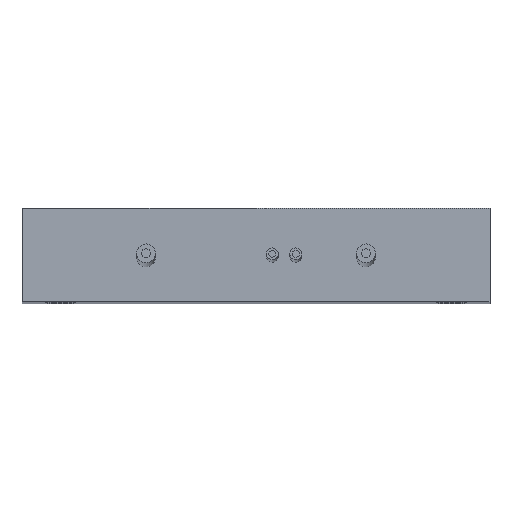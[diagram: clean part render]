
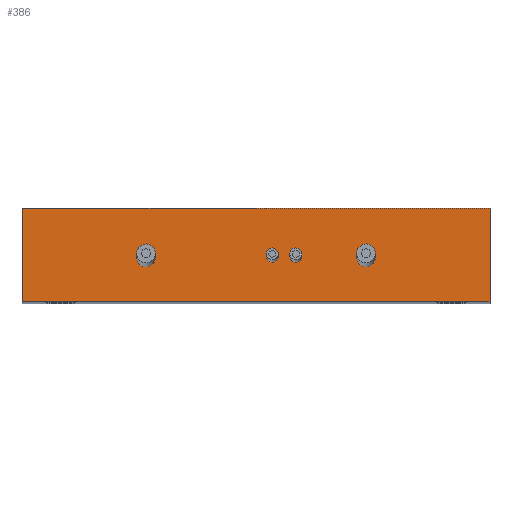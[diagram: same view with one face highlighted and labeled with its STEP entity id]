
A CAD part, top view. The second image highlights one B-rep face of the part: STEP entity #386.
In plain terms, the highlighted planar face has unit normal (0, 0, 1).
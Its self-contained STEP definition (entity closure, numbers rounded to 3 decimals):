
#13=LINE($,#608,#25);
#16=LINE($,#622,#28);
#19=LINE($,#628,#31);
#22=LINE($,#641,#34);
#25=VECTOR($,#509,20.);
#28=VECTOR($,#522,100.);
#31=VECTOR($,#527,20.);
#34=VECTOR($,#540,100.);
#49=PLANE($,#439);
#80=FACE_BOUND($,#153,.T.);
#81=FACE_BOUND($,#154,.T.);
#82=FACE_BOUND($,#155,.T.);
#83=FACE_BOUND($,#156,.T.);
#84=FACE_BOUND($,#157,.T.);
#153=EDGE_LOOP($,(#314));
#154=EDGE_LOOP($,(#315));
#155=EDGE_LOOP($,(#316));
#156=EDGE_LOOP($,(#317));
#157=EDGE_LOOP($,(#318,#319,#320,#321));
#161=CIRCLE($,#396,1.25);
#165=CIRCLE($,#404,1.25);
#169=CIRCLE($,#412,2.);
#173=CIRCLE($,#420,2.);
#185=VERTEX_POINT($,#564);
#189=VERTEX_POINT($,#576);
#193=VERTEX_POINT($,#588);
#197=VERTEX_POINT($,#600);
#198=VERTEX_POINT($,#604);
#200=VERTEX_POINT($,#607);
#206=VERTEX_POINT($,#621);
#208=VERTEX_POINT($,#627);
#217=EDGE_CURVE($,#185,#185,#161,.T.);
#221=EDGE_CURVE($,#189,#189,#165,.T.);
#225=EDGE_CURVE($,#193,#193,#169,.T.);
#229=EDGE_CURVE($,#197,#197,#173,.T.);
#231=EDGE_CURVE($,#200,#198,#13,.T.);
#238=EDGE_CURVE($,#206,#200,#16,.T.);
#241=EDGE_CURVE($,#208,#206,#19,.T.);
#248=EDGE_CURVE($,#198,#208,#22,.T.);
#314=ORIENTED_EDGE($,*,*,#217,.T.);
#315=ORIENTED_EDGE($,*,*,#221,.T.);
#316=ORIENTED_EDGE($,*,*,#225,.T.);
#317=ORIENTED_EDGE($,*,*,#229,.T.);
#318=ORIENTED_EDGE($,*,*,#248,.T.);
#319=ORIENTED_EDGE($,*,*,#241,.T.);
#320=ORIENTED_EDGE($,*,*,#238,.T.);
#321=ORIENTED_EDGE($,*,*,#231,.T.);
#386=ADVANCED_FACE($,(#80,#81,#82,#83,#84),#49,.T.);
#396=AXIS2_PLACEMENT_3D($,#565,#454,#455);
#404=AXIS2_PLACEMENT_3D($,#577,#470,#471);
#412=AXIS2_PLACEMENT_3D($,#589,#486,#487);
#420=AXIS2_PLACEMENT_3D($,#601,#502,#503);
#439=AXIS2_PLACEMENT_3D($,#648,#552,#553);
#454=DIRECTION('center_axis',(0.,0.,
-1.));
#455=DIRECTION('ref_axis',(-1.,0.,0.));
#470=DIRECTION('center_axis',(0.,0.,
-1.));
#471=DIRECTION('ref_axis',(-1.,0.,0.));
#486=DIRECTION('center_axis',(0.,0.,
-1.));
#487=DIRECTION('ref_axis',(-0.66,-0.751,0.));
#502=DIRECTION('center_axis',(0.,0.,
-1.));
#503=DIRECTION('ref_axis',(-0.66,-0.751,0.));
#509=DIRECTION($,(0.,1.,0.));
#522=DIRECTION($,(1.,0.,0.));
#527=DIRECTION($,(0.,-1.,0.));
#540=DIRECTION($,(-1.,0.,0.));
#552=DIRECTION('center_axis',(0.,0.,
1.));
#553=DIRECTION('ref_axis',(1.,0.,0.));
#564=CARTESIAN_POINT('',(57.575,13.328,136.404));
#565=CARTESIAN_POINT('Origin',(56.325,13.328,136.404));
#576=CARTESIAN_POINT('',(62.575,13.328,136.404));
#577=CARTESIAN_POINT('Origin',(61.325,13.328,136.404));
#588=CARTESIAN_POINT('',(30.644,14.58,136.404));
#589=CARTESIAN_POINT('Origin',(29.323,13.078,136.404));
#600=CARTESIAN_POINT('',(77.644,14.58,136.404));
#601=CARTESIAN_POINT('Origin',(76.323,13.078,136.404));
#604=CARTESIAN_POINT('',(102.823,23.578,136.404));
#607=CARTESIAN_POINT('',(102.823,3.578,136.404));
#608=CARTESIAN_POINT($,(102.823,23.578,136.404));
#621=CARTESIAN_POINT('',(2.823,3.578,136.404));
#622=CARTESIAN_POINT($,(102.823,3.578,136.404));
#627=CARTESIAN_POINT('',(2.823,23.578,136.404));
#628=CARTESIAN_POINT($,(2.823,3.578,136.404));
#641=CARTESIAN_POINT($,(2.823,23.578,136.404));
#648=CARTESIAN_POINT('Origin',(52.823,13.578,136.404));
